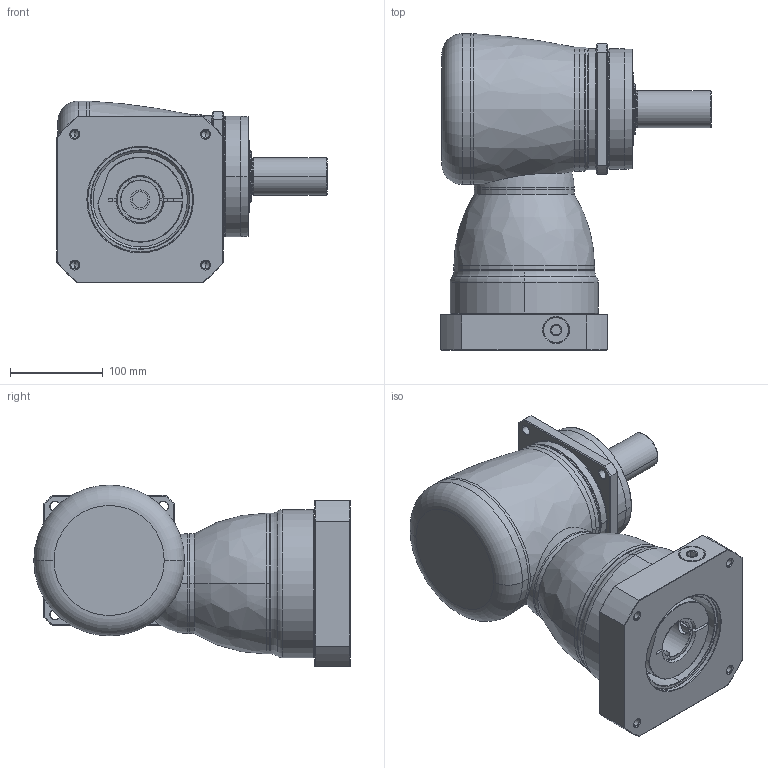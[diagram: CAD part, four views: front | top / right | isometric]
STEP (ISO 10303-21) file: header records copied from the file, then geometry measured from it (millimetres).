
FILE_DESCRIPTION((''),'2;1');
FILE_NAME('KF140_1ST_42-P0409A00101_ASM','2016-06-22T',('d01943'),(''),'PRO/ENGINEER BY PARAMETRIC TECHNOLOGY CORPORATION, 2008410','PRO/ENGINEER BY PARAMETRIC TECHNOLOGY CORPORATION, 2008410','');
FILE_SCHEMA(('CONFIG_CONTROL_DESIGN'));
Length unit declared in the file: millimetre
Products named in the file (11): P1008500002; P1804500001; P0915500001; P1315500001; P1007500001; P1318500501; P0409A00101; P0503A00012; P0912505201; 21711422019; KF140_1ST_42-P0409A00101_ASM
Assembly tree (10 placements, depth 2):
  KF140_1ST_42-P0409A00101_ASM
    P1008500002
    P1804500001
    P0915500001
    P1315500001
    P1007500001
    P1318500501
    P0409A00101
    P0503A00012
    P0912505201
    21711422019
Bounding box: 292 x 342 x 196.5 mm (x, y, z)
Volume: 5328249.8 mm3; surface area: 584022.7 mm2
Topology: 11 solids, 11 shells, 435 faces, 964 edges, 569 vertices
Faces by surface type: cylinder 140, cone 118, plane 94, torus 60, bspline 21, sphere 2
Entity records: 16928 total; most frequent: CARTESIAN_POINT 7059, DIRECTION 2187, ORIENTED_EDGE 1892, EDGE_CURVE 946, AXIS2_PLACEMENT_3D 927, VERTEX_POINT 569, EDGE_LOOP 497, CIRCLE 492
